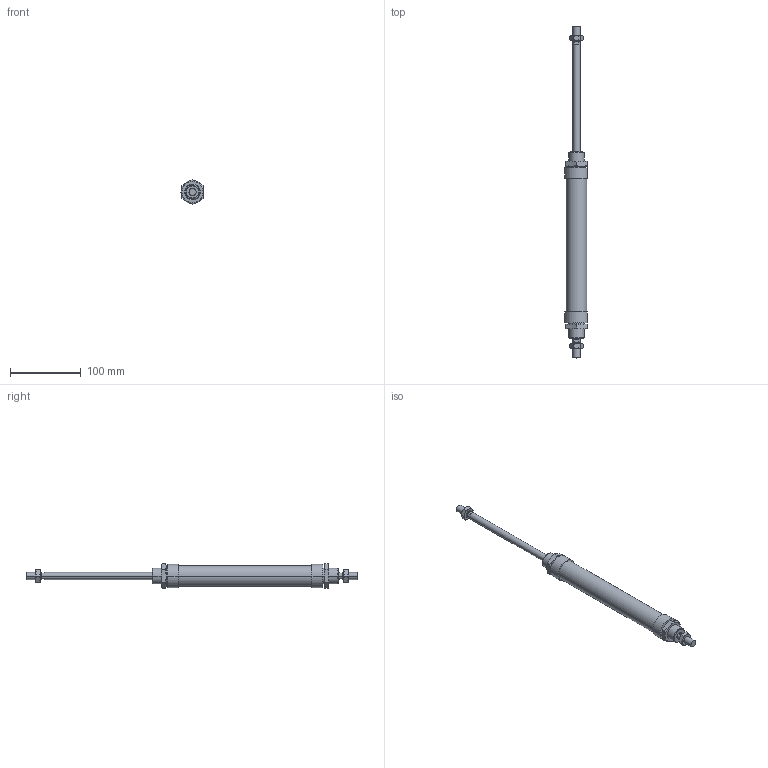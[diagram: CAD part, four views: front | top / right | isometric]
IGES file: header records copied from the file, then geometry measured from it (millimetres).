
Global section: file name: No Iges File Name specified; native system: AutoDesk Inventor R6.0; preprocessor: AutoDesk Inventor Iges Exporter R6.0; author: No Author specified; organization: No Organization specified; date: 20030403.072505; units: millimetre
Bounding box: 31.5 x 469 x 34.64 mm (x, y, z)
Volume: 189873.1 mm3; surface area: 54467.4 mm2
Topology: 6 solids, 6 shells, 184 faces, 396 edges, 232 vertices
Faces by surface type: cone 68, plane 60, bspline 30, cylinder 20, revolution 6
